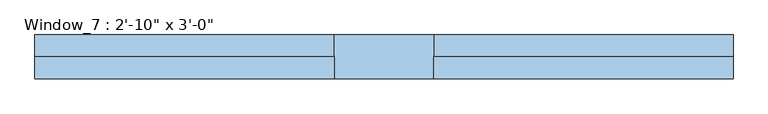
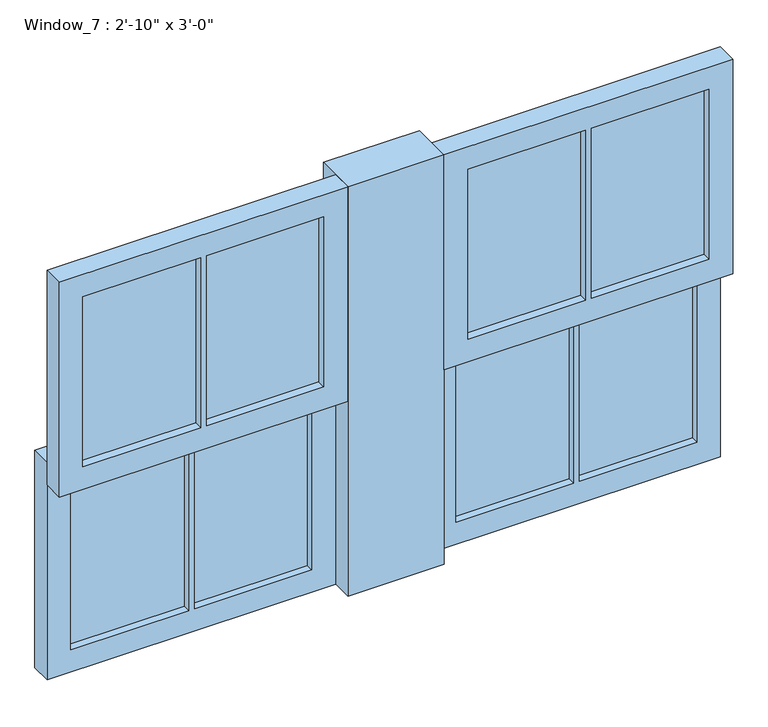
"""IFC4 building model written with IfcOpenShell, lengths in millimetres: window geometry."""

from ifc_helpers import new_model, si_unit, frame, origin, place, context, project, spatial, polyline, outline, extrude, source, transform, mapped, element, save


def window_351afe28(model_context):
    return source(origin(), model_context, "Body", "SweptSolid", [
        extrude(outline(polyline([(-412.35, -69.85), (-412.35, -76.7853592), (-661.2, -76.7853592), (-661.2, -69.85), (-412.35, -69.85)])), frame((0.0, 0.0, 1323.175), z_axis=(0.0, 0.0, 1.0), x_axis=(1.0, 0.0, 0.0)), (0.0, 0.0, 1.0), 379.425),
        extrude(outline(polyline([(661.2, -69.85), (661.2, -76.7853592), (413.15, -76.7853592), (413.15, -69.85), (661.2, -69.85)])), frame((0.0, 0.0, 1323.175), z_axis=(0.0, 0.0, 1.0), x_axis=(1.0, 0.0, 0.0)), (0.0, 0.0, 1.0), 379.425),
        extrude(outline(polyline([(400.45, -69.85), (400.45, -76.7853592), (152.4, -76.7853592), (152.4, -69.85), (400.45, -69.85)])), frame((0.0, 0.0, 1323.175), z_axis=(0.0, 0.0, 1.0), x_axis=(1.0, 0.0, 0.0)), (0.0, 0.0, 1.0), 379.425),
        extrude(outline(polyline([(-152.4, -69.85), (-152.4, -76.7853592), (-399.65, -76.7853592), (-399.65, -69.85), (-152.4, -69.85)])), frame((0.0, 0.0, 1323.175), z_axis=(0.0, 0.0, 1.0), x_axis=(1.0, 0.0, 0.0)), (0.0, 0.0, 1.0), 379.425),
        extrude(outline(polyline([(1752.6, 101.6), (1273.175, 101.6), (1273.175, 711.2), (1752.6, 711.2), (1752.6, 101.6)]), holes=[polyline([(1702.6, 413.15), (1702.6, 661.2), (1323.175, 661.2), (1323.175, 413.15), (1702.6, 413.15)]), polyline([(1702.6, 152.4), (1702.6, 400.45), (1323.175, 400.45), (1323.175, 152.4), (1702.6, 152.4)])]), frame((0.0, -95.25, 0.0), z_axis=(0.0, 1.0, 0.0), x_axis=(0.0, 0.0, 1.0)), (0.0, 0.0, 1.0), 44.45),
        extrude(outline(polyline([(1273.175, -711.2), (1273.175, -101.6), (1752.6, -101.6), (1752.6, -711.2), (1273.175, -711.2)]), holes=[polyline([(1323.175, -661.2), (1702.6, -661.2), (1702.6, -412.35), (1323.175, -412.35), (1323.175, -661.2)]), polyline([(1323.175, -152.4), (1323.175, -399.65), (1702.6, -399.65), (1702.6, -152.4), (1323.175, -152.4)])]), frame((0.0, -95.25, 0.0), z_axis=(0.0, 1.0, 0.0), x_axis=(0.0, 0.0, 1.0)), (0.0, 0.0, 1.0), 44.45),
        extrude(outline(polyline([(-101.6, -6.35), (101.6, -6.35), (101.6, -95.25), (-101.6, -95.25), (-101.6, -6.35)])), frame((0.0, 0.0, 838.2), z_axis=(0.0, 0.0, 1.0), x_axis=(1.0, 0.0, 0.0)), (0.0, 0.0, 1.0), 914.4),
        extrude(outline(polyline([(413.15, -34.925), (413.15, -22.225), (661.2, -22.225), (661.2, -34.925), (413.15, -34.925)])), frame((0.0, 0.0, 888.2), z_axis=(0.0, 0.0, 1.0), x_axis=(1.0, 0.0, 0.0)), (0.0, 0.0, 1.0), 384.975),
        extrude(outline(polyline([(-661.2, -34.925), (-661.2, -22.225), (-412.35, -22.225), (-412.35, -34.925), (-661.2, -34.925)])), frame((0.0, 0.0, 888.2), z_axis=(0.0, 0.0, 1.0), x_axis=(1.0, 0.0, 0.0)), (0.0, 0.0, 1.0), 384.975),
        extrude(outline(polyline([(-399.65, -34.925), (-399.65, -22.225), (-152.4, -22.225), (-152.4, -34.925), (-399.65, -34.925)])), frame((0.0, 0.0, 888.2), z_axis=(0.0, 0.0, 1.0), x_axis=(1.0, 0.0, 0.0)), (0.0, 0.0, 1.0), 384.975),
        extrude(outline(polyline([(152.4, -34.925), (152.4, -22.225), (400.45, -22.225), (400.45, -34.925), (152.4, -34.925)])), frame((0.0, 0.0, 888.2), z_axis=(0.0, 0.0, 1.0), x_axis=(1.0, 0.0, 0.0)), (0.0, 0.0, 1.0), 384.975),
        extrude(outline(polyline([(1323.175, 101.6), (838.2, 101.6), (838.2, 711.2), (1323.175, 711.2), (1323.175, 101.6)]), holes=[polyline([(1273.175, 413.15), (1273.175, 661.2), (888.2, 661.2), (888.2, 413.15), (1273.175, 413.15)]), polyline([(1273.175, 152.4), (1273.175, 400.45), (888.2, 400.45), (888.2, 152.4), (1273.175, 152.4)])]), frame((0.0, -50.8, 0.0), z_axis=(0.0, 1.0, 0.0), x_axis=(0.0, 0.0, 1.0)), (0.0, 0.0, 1.0), 44.45),
        extrude(outline(polyline([(838.2, -711.2), (838.2, -101.6), (1323.175, -101.6), (1323.175, -711.2), (838.2, -711.2)]), holes=[polyline([(888.2, -661.2), (1273.175, -661.2), (1273.175, -412.35), (888.2, -412.35), (888.2, -661.2)]), polyline([(888.2, -152.4), (888.2, -399.65), (1273.175, -399.65), (1273.175, -152.4), (888.2, -152.4)])]), frame((0.0, -50.8, 0.0), z_axis=(0.0, 1.0, 0.0), x_axis=(0.0, 0.0, 1.0)), (0.0, 0.0, 1.0), 44.45),
    ])


if __name__ == "__main__":
    model = new_model("IFC4")
    model_context = context("Model", 3, world=origin())
    ifc_project = project(units=[si_unit("LENGTHUNIT", "METRE", prefix="MILLI")], contexts=[model_context])
    site = spatial("IfcSite", under=ifc_project)
    building = spatial("IfcBuilding", under=site)
    placement = place(None, origin())
    window_shape = window_351afe28(model_context)
    element("IfcWindow", 1, ObjectType="Window_7 : 2'-10\" x 3'-0\"", at=placement, inside=building, context=model_context, shape_type="MappedRepresentation", body=[
        mapped(window_shape, transform((0.0, 0.0, 0.0), x_axis=(1.0, 0.0, 0.0), y_axis=(0.0, 1.0, 0.0), z_axis=(0.0, 0.0, 1.0))),
    ])
    save(model, "model.ifc")
